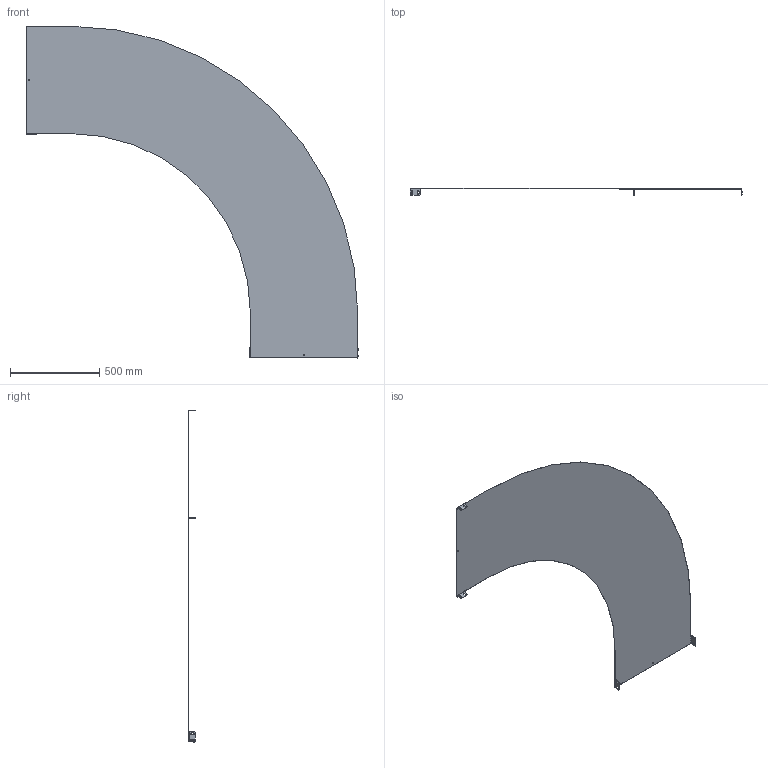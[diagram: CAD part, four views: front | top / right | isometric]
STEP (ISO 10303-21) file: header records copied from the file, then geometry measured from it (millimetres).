
FILE_DESCRIPTION (( 'STEP AP203' ), '1' );
FILE_NAME ('UKD106 (R1000).STEP', '2015-03-30T13:24:12', ( '' ), ( '' ), 'SwSTEP 2.0', 'SolidWorks 2014', '' );
FILE_SCHEMA (( 'CONFIG_CONTROL_DESIGN' ));
Length unit declared in the file: millimetre
Products named in the file (1): UKD106 (R1000)
Bounding box: 1861 x 37 x 1861 mm (x, y, z)
Volume: 1856495.6 mm3; surface area: 3103033.5 mm2
Topology: 1 solids, 1 shells, 166 faces, 484 edges, 296 vertices
Faces by surface type: plane 128, cylinder 38
Entity records: 5573 total; most frequent: ORIENTED_EDGE 968, DIRECTION 958, CARTESIAN_POINT 947, EDGE_CURVE 484, LINE 344, VECTOR 344, AXIS2_PLACEMENT_3D 307, VERTEX_POINT 296
